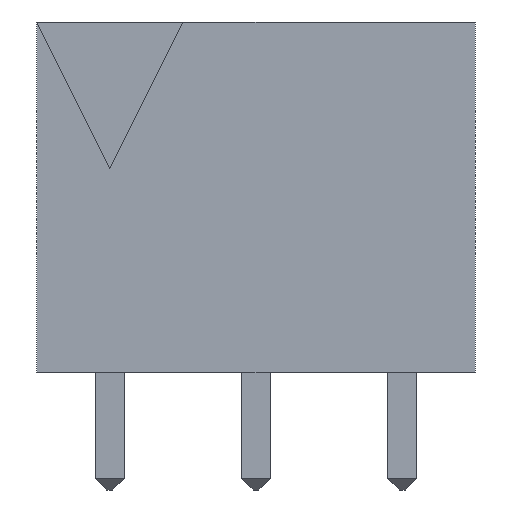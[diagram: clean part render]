
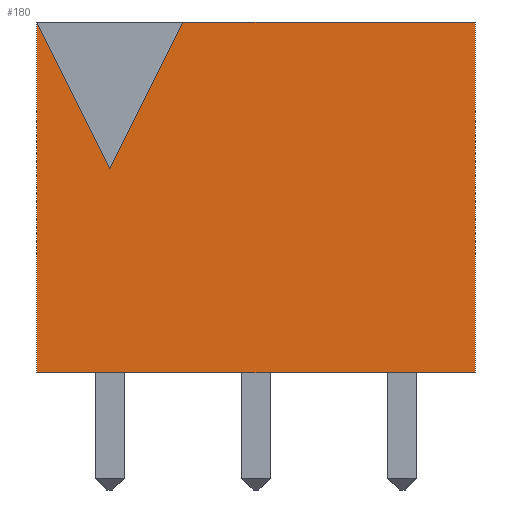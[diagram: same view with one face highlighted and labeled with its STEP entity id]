
A CAD part, front view. The second image highlights one B-rep face of the part: STEP entity #180.
In plain terms, the highlighted planar face has unit normal (0, -1, 0).
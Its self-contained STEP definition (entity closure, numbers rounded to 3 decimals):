
#36 = EDGE_CURVE('',#37,#39,#41,.T.);
#37 = VERTEX_POINT('',#38);
#38 = CARTESIAN_POINT('',(-2.5,-4.25,0.));
#39 = VERTEX_POINT('',#40);
#40 = CARTESIAN_POINT('',(-2.5,-4.25,12.));
#41 = SURFACE_CURVE('',#42,(#46,#58),.PCURVE_S1.);
#42 = LINE('',#43,#44);
#43 = CARTESIAN_POINT('',(-2.5,-4.25,0.));
#44 = VECTOR('',#45,1.);
#45 = DIRECTION('',(0.,0.,1.));
#46 = PCURVE('',#47,#52);
#47 = PLANE('',#48);
#48 = AXIS2_PLACEMENT_3D('',#49,#50,#51);
#49 = CARTESIAN_POINT('',(-2.5,-4.25,0.));
#50 = DIRECTION('',(1.,0.,0.));
#51 = DIRECTION('',(0.,0.,1.));
#52 = DEFINITIONAL_REPRESENTATION('',(#53),#57);
#53 = LINE('',#54,#55);
#54 = CARTESIAN_POINT('',(0.,0.));
#55 = VECTOR('',#56,1.);
#56 = DIRECTION('',(1.,0.));
#57 = ( GEOMETRIC_REPRESENTATION_CONTEXT(2) 
PARAMETRIC_REPRESENTATION_CONTEXT() REPRESENTATION_CONTEXT('2D SPACE',''
  ) );
#58 = PCURVE('',#59,#64);
#59 = PLANE('',#60);
#60 = AXIS2_PLACEMENT_3D('',#61,#62,#63);
#61 = CARTESIAN_POINT('',(-2.5,-4.25,0.));
#62 = DIRECTION('',(0.,1.,0.));
#63 = DIRECTION('',(0.,0.,1.));
#64 = DEFINITIONAL_REPRESENTATION('',(#65),#69);
#65 = LINE('',#66,#67);
#66 = CARTESIAN_POINT('',(0.,0.));
#67 = VECTOR('',#68,1.);
#68 = DIRECTION('',(1.,0.));
#69 = ( GEOMETRIC_REPRESENTATION_CONTEXT(2) 
PARAMETRIC_REPRESENTATION_CONTEXT() REPRESENTATION_CONTEXT('2D SPACE',''
  ) );
#87 = PLANE('',#88);
#88 = AXIS2_PLACEMENT_3D('',#89,#90,#91);
#89 = CARTESIAN_POINT('',(-2.5,-4.25,0.));
#90 = DIRECTION('',(0.,0.,1.));
#91 = DIRECTION('',(1.,0.,0.));
#143 = PLANE('',#144);
#144 = AXIS2_PLACEMENT_3D('',#145,#146,#147);
#145 = CARTESIAN_POINT('',(-2.5,-4.25,12.));
#146 = DIRECTION('',(0.,0.,1.));
#147 = DIRECTION('',(1.,0.,0.));
#169 = PLANE('',#170);
#170 = AXIS2_PLACEMENT_3D('',#171,#172,#173);
#171 = CARTESIAN_POINT('',(-2.5,-4.25,12.));
#172 = DIRECTION('',(-0.894,0.,-0.447));
#173 = DIRECTION('',(0.447,0.,-0.894));
#180 = ADVANCED_FACE('',(#181),#59,.F.);
#181 = FACE_BOUND('',#182,.F.);
#182 = EDGE_LOOP('',(#183,#213,#234,#235,#258,#286));
#183 = ORIENTED_EDGE('',*,*,#184,.F.);
#184 = EDGE_CURVE('',#185,#187,#189,.T.);
#185 = VERTEX_POINT('',#186);
#186 = CARTESIAN_POINT('',(12.5,-4.25,0.));
#187 = VERTEX_POINT('',#188);
#188 = CARTESIAN_POINT('',(12.5,-4.25,12.));
#189 = SURFACE_CURVE('',#190,(#194,#201),.PCURVE_S1.);
#190 = LINE('',#191,#192);
#191 = CARTESIAN_POINT('',(12.5,-4.25,0.));
#192 = VECTOR('',#193,1.);
#193 = DIRECTION('',(0.,0.,1.));
#194 = PCURVE('',#59,#195);
#195 = DEFINITIONAL_REPRESENTATION('',(#196),#200);
#196 = LINE('',#197,#198);
#197 = CARTESIAN_POINT('',(0.,15.));
#198 = VECTOR('',#199,1.);
#199 = DIRECTION('',(1.,0.));
#200 = ( GEOMETRIC_REPRESENTATION_CONTEXT(2) 
PARAMETRIC_REPRESENTATION_CONTEXT() REPRESENTATION_CONTEXT('2D SPACE',''
  ) );
#201 = PCURVE('',#202,#207);
#202 = PLANE('',#203);
#203 = AXIS2_PLACEMENT_3D('',#204,#205,#206);
#204 = CARTESIAN_POINT('',(12.5,-4.25,0.));
#205 = DIRECTION('',(1.,0.,0.));
#206 = DIRECTION('',(0.,0.,1.));
#207 = DEFINITIONAL_REPRESENTATION('',(#208),#212);
#208 = LINE('',#209,#210);
#209 = CARTESIAN_POINT('',(0.,0.));
#210 = VECTOR('',#211,1.);
#211 = DIRECTION('',(1.,0.));
#212 = ( GEOMETRIC_REPRESENTATION_CONTEXT(2) 
PARAMETRIC_REPRESENTATION_CONTEXT() REPRESENTATION_CONTEXT('2D SPACE',''
  ) );
#213 = ORIENTED_EDGE('',*,*,#214,.F.);
#214 = EDGE_CURVE('',#37,#185,#215,.T.);
#215 = SURFACE_CURVE('',#216,(#220,#227),.PCURVE_S1.);
#216 = LINE('',#217,#218);
#217 = CARTESIAN_POINT('',(-2.5,-4.25,0.));
#218 = VECTOR('',#219,1.);
#219 = DIRECTION('',(1.,0.,0.));
#220 = PCURVE('',#59,#221);
#221 = DEFINITIONAL_REPRESENTATION('',(#222),#226);
#222 = LINE('',#223,#224);
#223 = CARTESIAN_POINT('',(0.,0.));
#224 = VECTOR('',#225,1.);
#225 = DIRECTION('',(0.,1.));
#226 = ( GEOMETRIC_REPRESENTATION_CONTEXT(2) 
PARAMETRIC_REPRESENTATION_CONTEXT() REPRESENTATION_CONTEXT('2D SPACE',''
  ) );
#227 = PCURVE('',#87,#228);
#228 = DEFINITIONAL_REPRESENTATION('',(#229),#233);
#229 = LINE('',#230,#231);
#230 = CARTESIAN_POINT('',(0.,0.));
#231 = VECTOR('',#232,1.);
#232 = DIRECTION('',(1.,0.));
#233 = ( GEOMETRIC_REPRESENTATION_CONTEXT(2) 
PARAMETRIC_REPRESENTATION_CONTEXT() REPRESENTATION_CONTEXT('2D SPACE',''
  ) );
#234 = ORIENTED_EDGE('',*,*,#36,.T.);
#235 = ORIENTED_EDGE('',*,*,#236,.T.);
#236 = EDGE_CURVE('',#39,#237,#239,.T.);
#237 = VERTEX_POINT('',#238);
#238 = CARTESIAN_POINT('',(0.,-4.25,7.));
#239 = SURFACE_CURVE('',#240,(#244,#251),.PCURVE_S1.);
#240 = LINE('',#241,#242);
#241 = CARTESIAN_POINT('',(-2.5,-4.25,12.));
#242 = VECTOR('',#243,1.);
#243 = DIRECTION('',(0.447,0.,-0.894));
#244 = PCURVE('',#59,#245);
#245 = DEFINITIONAL_REPRESENTATION('',(#246),#250);
#246 = LINE('',#247,#248);
#247 = CARTESIAN_POINT('',(12.,0.));
#248 = VECTOR('',#249,1.);
#249 = DIRECTION('',(-0.894,0.447));
#250 = ( GEOMETRIC_REPRESENTATION_CONTEXT(2) 
PARAMETRIC_REPRESENTATION_CONTEXT() REPRESENTATION_CONTEXT('2D SPACE',''
  ) );
#251 = PCURVE('',#169,#252);
#252 = DEFINITIONAL_REPRESENTATION('',(#253),#257);
#253 = LINE('',#254,#255);
#254 = CARTESIAN_POINT('',(0.,0.));
#255 = VECTOR('',#256,1.);
#256 = DIRECTION('',(1.,0.));
#257 = ( GEOMETRIC_REPRESENTATION_CONTEXT(2) 
PARAMETRIC_REPRESENTATION_CONTEXT() REPRESENTATION_CONTEXT('2D SPACE',''
  ) );
#258 = ORIENTED_EDGE('',*,*,#259,.F.);
#259 = EDGE_CURVE('',#260,#237,#262,.T.);
#260 = VERTEX_POINT('',#261);
#261 = CARTESIAN_POINT('',(2.5,-4.25,12.));
#262 = SURFACE_CURVE('',#263,(#267,#274),.PCURVE_S1.);
#263 = LINE('',#264,#265);
#264 = CARTESIAN_POINT('',(2.5,-4.25,12.));
#265 = VECTOR('',#266,1.);
#266 = DIRECTION('',(-0.447,0.,-0.894));
#267 = PCURVE('',#59,#268);
#268 = DEFINITIONAL_REPRESENTATION('',(#269),#273);
#269 = LINE('',#270,#271);
#270 = CARTESIAN_POINT('',(12.,5.));
#271 = VECTOR('',#272,1.);
#272 = DIRECTION('',(-0.894,-0.447));
#273 = ( GEOMETRIC_REPRESENTATION_CONTEXT(2) 
PARAMETRIC_REPRESENTATION_CONTEXT() REPRESENTATION_CONTEXT('2D SPACE',''
  ) );
#274 = PCURVE('',#275,#280);
#275 = PLANE('',#276);
#276 = AXIS2_PLACEMENT_3D('',#277,#278,#279);
#277 = CARTESIAN_POINT('',(2.5,-4.25,12.));
#278 = DIRECTION('',(-0.894,0.,0.447));
#279 = DIRECTION('',(-0.447,0.,-0.894));
#280 = DEFINITIONAL_REPRESENTATION('',(#281),#285);
#281 = LINE('',#282,#283);
#282 = CARTESIAN_POINT('',(-0.,0.));
#283 = VECTOR('',#284,1.);
#284 = DIRECTION('',(1.,0.));
#285 = ( GEOMETRIC_REPRESENTATION_CONTEXT(2) 
PARAMETRIC_REPRESENTATION_CONTEXT() REPRESENTATION_CONTEXT('2D SPACE',''
  ) );
#286 = ORIENTED_EDGE('',*,*,#287,.T.);
#287 = EDGE_CURVE('',#260,#187,#288,.T.);
#288 = SURFACE_CURVE('',#289,(#293,#300),.PCURVE_S1.);
#289 = LINE('',#290,#291);
#290 = CARTESIAN_POINT('',(-2.5,-4.25,12.));
#291 = VECTOR('',#292,1.);
#292 = DIRECTION('',(1.,0.,0.));
#293 = PCURVE('',#59,#294);
#294 = DEFINITIONAL_REPRESENTATION('',(#295),#299);
#295 = LINE('',#296,#297);
#296 = CARTESIAN_POINT('',(12.,0.));
#297 = VECTOR('',#298,1.);
#298 = DIRECTION('',(0.,1.));
#299 = ( GEOMETRIC_REPRESENTATION_CONTEXT(2) 
PARAMETRIC_REPRESENTATION_CONTEXT() REPRESENTATION_CONTEXT('2D SPACE',''
  ) );
#300 = PCURVE('',#143,#301);
#301 = DEFINITIONAL_REPRESENTATION('',(#302),#306);
#302 = LINE('',#303,#304);
#303 = CARTESIAN_POINT('',(0.,0.));
#304 = VECTOR('',#305,1.);
#305 = DIRECTION('',(1.,0.));
#306 = ( GEOMETRIC_REPRESENTATION_CONTEXT(2) 
PARAMETRIC_REPRESENTATION_CONTEXT() REPRESENTATION_CONTEXT('2D SPACE',''
  ) );
